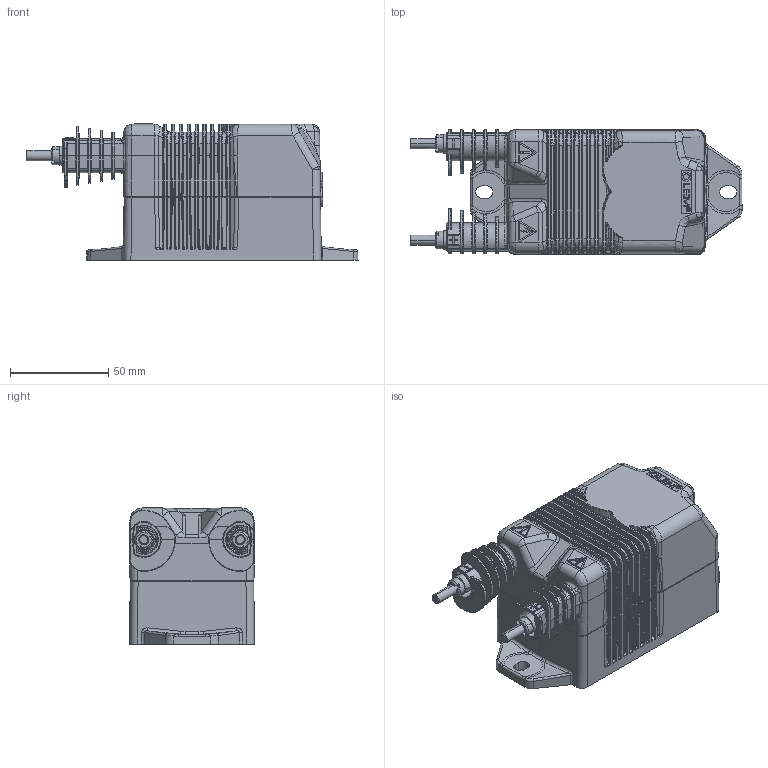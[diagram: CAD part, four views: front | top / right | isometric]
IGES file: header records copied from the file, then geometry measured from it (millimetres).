
Start section: Elysium IGES Interface
Global section: file name: C:\Users\scy\Desktop\DVM_BLACKBOX_OUTLINE_TYPE_C.igs; native system: PTC Creo Elements/Direct Modeling 19.0B  21-Mar-2015; preprocessor: Creo Element/Direct IGES_3D V2.2; author: Unknown; organization: Unknown; date: 20160628.104904; units: millimetre
Bounding box: 168.73 x 63.4 x 69.2 mm (x, y, z)
Volume: 413076.6 mm3; surface area: 66661.7 mm2
Topology: 1 solids, 3 shells, 3305 faces, 8063 edges, 4830 vertices
Faces by surface type: bspline 3305
